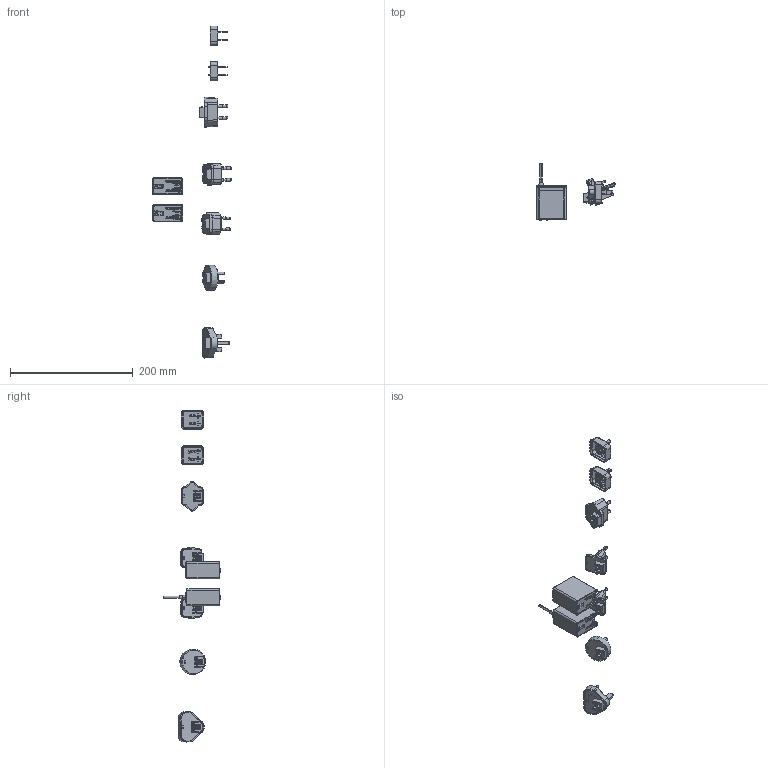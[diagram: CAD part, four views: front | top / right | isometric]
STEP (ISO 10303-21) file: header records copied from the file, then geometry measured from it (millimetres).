
FILE_DESCRIPTION(('Creo Elements/Direct Modeling STEP Export'),'2;1');
FILE_NAME('NGE12I.stp','2025-09-30T10:39:41',(''),(''),'Creo Elements/Direct Modeling STEP processor for AP214 (Solid Model)','Creo Elements/Direct Modeling 19.0G 27-Nov-2017 (C) Parametric Technology GmbH','');
FILE_SCHEMA(('AUTOMOTIVE_DESIGN { 1 0 10303 214 1 1 1 1 }'));
Length unit declared in the file: millimetre
Products named in the file (110): _X2_97627EC4_X0__1-241300_PRT_P.PRT; _X2_96F64EF6_X0_7_PRT_PRT-12340.PRT; _X2_96F64EF6_X0_6_PRT_PRT-25020.PRT; _X2_96F64EF6_X0_4_PRT_PRT-37700.PRT; _X2_96F64EF6_X0_3_PRT_PRT-50380.PRT; _X2_96F64EF6_X0_2_PRT_PRT-67280.PRT; _X2_96F64EF6_X0_1_PRT_PRT-21890.PRT; _X2_96F64EF6_X0_1_PRT_P--174510.PRT; _X2_96F64EF6_X0_1_1_PRT-2289850.PRT; _X2_5F397247_X0_2_PRT_PR-189200.PRT; _X2_5F397247_X0_-195600_-201420.PRT; _X2_540E76D6_X0__PRT_PRT-320290.PRT; ZHAOFAA4CA11JC19_5_PRT_PRT_PRT_.PRT; ZHAOFAA4CA11JC19_4_PRT_PRT_PRT_.PRT; ZHAOFAA4CA11JC19_3_PRT_PRT_PRT_.PRT; ZHAOFAA4CA11JC19_2_PRT_PRT_PRT_.PRT; ZHAOFAA4CA11JC19_1_PRT_PRT_PRT_.PRT; ZHAO54408073H96W_7_PRT_P-331140.PRT; ZHAO54408073H96W_15_PRT_-338880.PRT; ZHAO54408073H96W_14_PRT_-516360.PRT; ZHAO54408073H96W_12_PRT_-530400.PRT; ZHAO54408073H96W_11_PRT_-541780.PRT; ZHAO54408073H96W_10_PRT_-637920.PRT; ZHAO4A584105HRA6_3_PRT_P-826090.PRT; ZHAO1E64C46CAO2S_7_PRT_PRT_PRT_.PRT; ZHAO1E64C46CAO2S_6_PRT_PRT_PRT_.PRT; ZHAO1E64C46CAO2S_20_PRT-1436130.PRT; ZHAO1E64C46CAO2S_19_PRT-1520170.PRT; ZHAO1E64C46CAO2S_11_PRT-1644540.PRT; ZHAO1E64C46CAO2S_10_PRT-1653780.PRT; X_1-398720_PRT_PRT_PRT_-1677980.PRT; XX_1_PRT_PRT_PRT_PRT_PR-1702180.PRT; WW_1_1_PRT_PRT-216460.PRT; WW_1_1_PRT_PRT-209920.PRT; WW_1_1_PRT_PRT-203380.PRT; USB-103LC____6_1_PRT.PRT; USB-103LC____5_1_PRT.PRT; USB-103LC____4_1_PRT.PRT; USB-103LC____3_1_PRT.PRT; USB-103LC____2_1_PRT.PRT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
Assembly tree (55 placements, depth 2):
  _X2_97627EC4_X0__1-241300_PRT_P.PRT
    _X2_97627EC4_X0__1-241300_PRT_P.PRT
  _X2_96F64EF6_X0_7_PRT_PRT-12340.PRT
    _X2_96F64EF6_X0_7_PRT_PRT-12340.PRT
  _X2_96F64EF6_X0_6_PRT_PRT-25020.PRT
    _X2_96F64EF6_X0_6_PRT_PRT-25020.PRT
  _X2_96F64EF6_X0_4_PRT_PRT-37700.PRT
    _X2_96F64EF6_X0_4_PRT_PRT-37700.PRT
  _X2_96F64EF6_X0_3_PRT_PRT-50380.PRT
    _X2_96F64EF6_X0_3_PRT_PRT-50380.PRT
Bounding box: 128.02 x 93.3 x 540.2 mm (x, y, z)
Volume: 91077.6 mm3; surface area: 135275.9 mm2
Topology: 54 solids, 56 shells, 6683 faces, 19276 edges, 12809 vertices
Faces by surface type: plane 4522, cylinder 1440, cone 249, bspline 246, torus 98, extrusion 97, sphere 31
Entity records: 271441 total; most frequent: CARTESIAN_POINT 64124, ORIENTED_EDGE 38470, DIRECTION 32694, EDGE_CURVE 19241, VECTOR 14078, LINE 13981, VERTEX_POINT 12809, AXIS2_PLACEMENT_3D 9308
